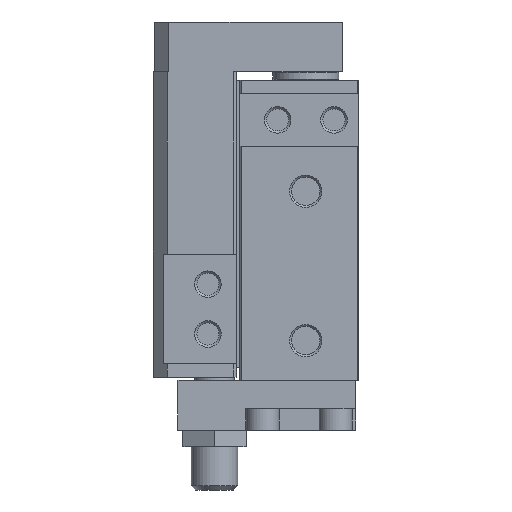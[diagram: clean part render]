
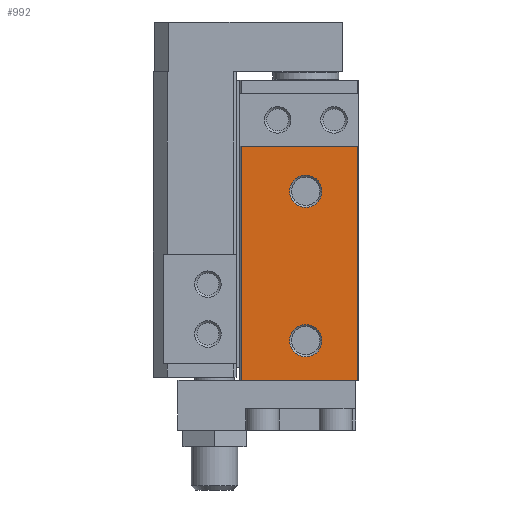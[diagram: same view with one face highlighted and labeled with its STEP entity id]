
A CAD part, left-side view. The second image highlights one B-rep face of the part: STEP entity #992.
In plain terms, the highlighted planar face has unit normal (-1, 0, 0).
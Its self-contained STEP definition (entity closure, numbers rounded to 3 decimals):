
#992 = ADVANCED_FACE( '', ( #2355, #2356, #2357 ), #2358, .T. );
#2355 = FACE_BOUND( '', #4156, .T. );
#2356 = FACE_BOUND( '', #4157, .T. );
#2357 = FACE_OUTER_BOUND( '', #4158, .T. );
#2358 = PLANE( '', #4159 );
#4156 = EDGE_LOOP( '', ( #7022 ) );
#4157 = EDGE_LOOP( '', ( #7023 ) );
#4158 = EDGE_LOOP( '', ( #7024, #7025, #7026, #7027 ) );
#4159 = AXIS2_PLACEMENT_3D( '', #7028, #7029, #7030 );
#7022 = ORIENTED_EDGE( '', *, *, #10699, .T. );
#7023 = ORIENTED_EDGE( '', *, *, #10700, .T. );
#7024 = ORIENTED_EDGE( '', *, *, #10701, .T. );
#7025 = ORIENTED_EDGE( '', *, *, #10645, .F. );
#7026 = ORIENTED_EDGE( '', *, *, #10702, .F. );
#7027 = ORIENTED_EDGE( '', *, *, #10703, .T. );
#7028 = CARTESIAN_POINT( '', ( -43., 35.505, -90.5 ) );
#7029 = DIRECTION( '', ( -1., 0., 0. ) );
#7030 = DIRECTION( '', ( 0., 0., 1. ) );
#10645 = EDGE_CURVE( '', #12967, #12968, #12969, .T. );
#10699 = EDGE_CURVE( '', #13042, #13042, #13043, .T. );
#10700 = EDGE_CURVE( '', #13044, #13044, #13045, .T. );
#10701 = EDGE_CURVE( '', #13046, #12968, #13047, .T. );
#10702 = EDGE_CURVE( '', #13048, #12967, #13049, .T. );
#10703 = EDGE_CURVE( '', #13048, #13046, #13050, .T. );
#12967 = VERTEX_POINT( '', #16079 );
#12968 = VERTEX_POINT( '', #16080 );
#12969 = LINE( '', #16081, #16082 );
#13042 = VERTEX_POINT( '', #16189 );
#13043 = CIRCLE( '', #16190, 4.864 );
#13044 = VERTEX_POINT( '', #16191 );
#13045 = CIRCLE( '', #16192, 4.864 );
#13046 = VERTEX_POINT( '', #16193 );
#13047 = LINE( '', #16194, #16195 );
#13048 = VERTEX_POINT( '', #16196 );
#13049 = LINE( '', #16197, #16198 );
#13050 = LINE( '', #16199, #16200 );
#16079 = CARTESIAN_POINT( '', ( -43., 35.505, -20. ) );
#16080 = CARTESIAN_POINT( '', ( -43., 0.495, -20. ) );
#16081 = CARTESIAN_POINT( '', ( -43., 36., -20. ) );
#16082 = VECTOR( '', #18458, 1000. );
#16189 = CARTESIAN_POINT( '', ( -43., 16., -83.364 ) );
#16190 = AXIS2_PLACEMENT_3D( '', #18499, #18500, #18501 );
#16191 = CARTESIAN_POINT( '', ( -43., 16., -38.364 ) );
#16192 = AXIS2_PLACEMENT_3D( '', #18502, #18503, #18504 );
#16193 = CARTESIAN_POINT( '', ( -43., 0.495, -90.5 ) );
#16194 = CARTESIAN_POINT( '', ( -43., 0.495, -90.5 ) );
#16195 = VECTOR( '', #18505, 1000. );
#16196 = CARTESIAN_POINT( '', ( -43., 35.505, -90.5 ) );
#16197 = CARTESIAN_POINT( '', ( -43., 35.505, -90.5 ) );
#16198 = VECTOR( '', #18506, 1000. );
#16199 = CARTESIAN_POINT( '', ( -43., 35.505, -90.5 ) );
#16200 = VECTOR( '', #18507, 1000. );
#18458 = DIRECTION( '', ( 0., -1., 0. ) );
#18499 = CARTESIAN_POINT( '', ( -43., 16., -78.5 ) );
#18500 = DIRECTION( '', ( 1., 0., 0. ) );
#18501 = DIRECTION( '', ( 0., 0., -1. ) );
#18502 = CARTESIAN_POINT( '', ( -43., 16., -33.5 ) );
#18503 = DIRECTION( '', ( 1., 0., 0. ) );
#18504 = DIRECTION( '', ( 0., 0., -1. ) );
#18505 = DIRECTION( '', ( 0., 0., 1. ) );
#18506 = DIRECTION( '', ( 0., 0., 1. ) );
#18507 = DIRECTION( '', ( 0., -1., 0. ) );
